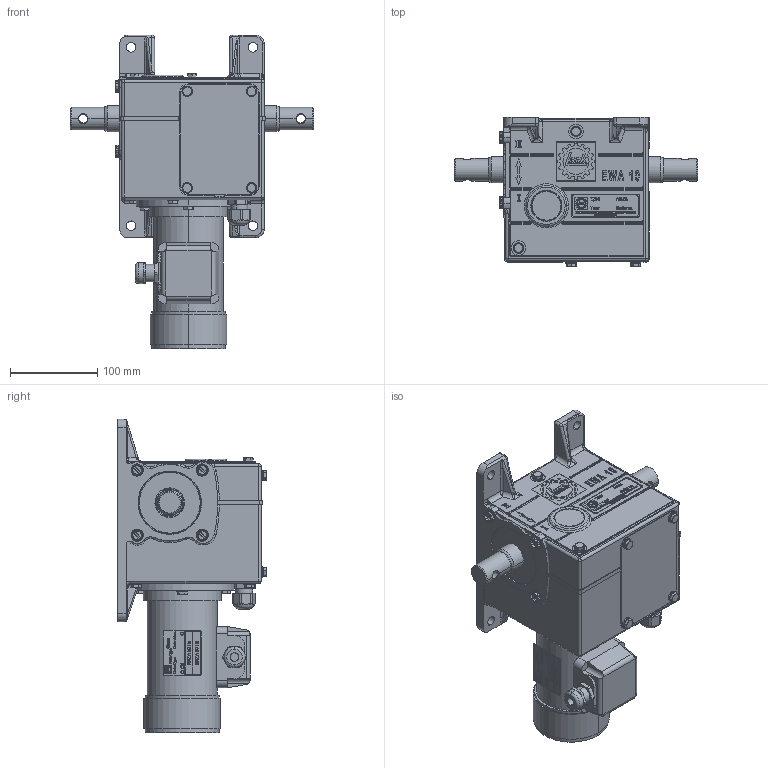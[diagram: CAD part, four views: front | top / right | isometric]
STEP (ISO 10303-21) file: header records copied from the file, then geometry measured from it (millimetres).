
FILE_DESCRIPTION (( 'STEP AP214' ), '1' );
FILE_NAME ('EWA_10_0505_12210_0505_0640_STEP_20140903.STEP', '2014-09-03T09:45:11', ( '' ), ( '' ), 'SwSTEP 2.0', 'SolidWorks 2013', '' );
FILE_SCHEMA (( 'AUTOMOTIVE_DESIGN' ));
Length unit declared in the file: millimetre
Products named in the file (1): EWA_10_0505_12210_0505_0640_STEP_20140903
Bounding box: 280 x 171.1 x 360.5 mm (x, y, z)
Volume: 2234342 mm3; surface area: 491143.7 mm2
Topology: 50 solids, 52 shells, 4458 faces, 11654 edges, 7599 vertices
Faces by surface type: plane 2331, bspline 956, cylinder 850, torus 228, cone 78, sphere 15
Entity records: 235730 total; most frequent: CARTESIAN_POINT 81942, ORIENTED_EDGE 23254, DIRECTION 18499, EDGE_CURVE 11627, VERTEX_POINT 7599, VECTOR 7067, LINE 7067, AXIS2_PLACEMENT_3D 5716
